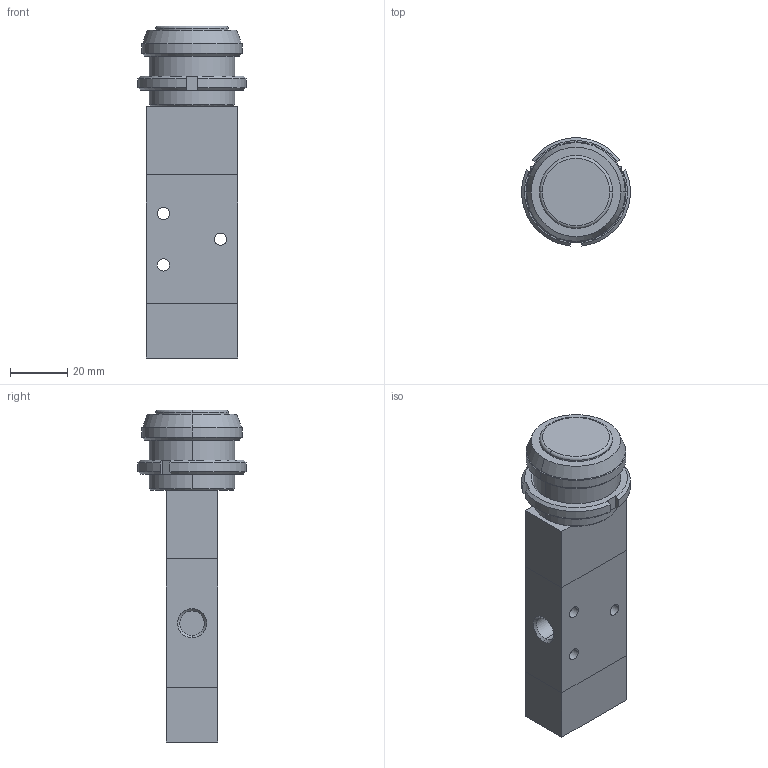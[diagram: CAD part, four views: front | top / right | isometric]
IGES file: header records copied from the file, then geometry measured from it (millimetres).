
Global section: file name: No Iges File Name specified; native system: AutoDesk Inventor R11.0; preprocessor: AutoDesk Inventor Iges Exporter R11.0; author: No Author specified; organization: No Organization specified; date: 20061219.113838; units: millimetre
Bounding box: 37.89 x 37.82 x 116 mm (x, y, z)
Volume: 71717.2 mm3; surface area: 16373.2 mm2
Topology: 2 solids, 2 shells, 85 faces, 198 edges, 124 vertices
Faces by surface type: plane 33, bspline 19, cone 14, cylinder 9, revolution 8, torus 2
